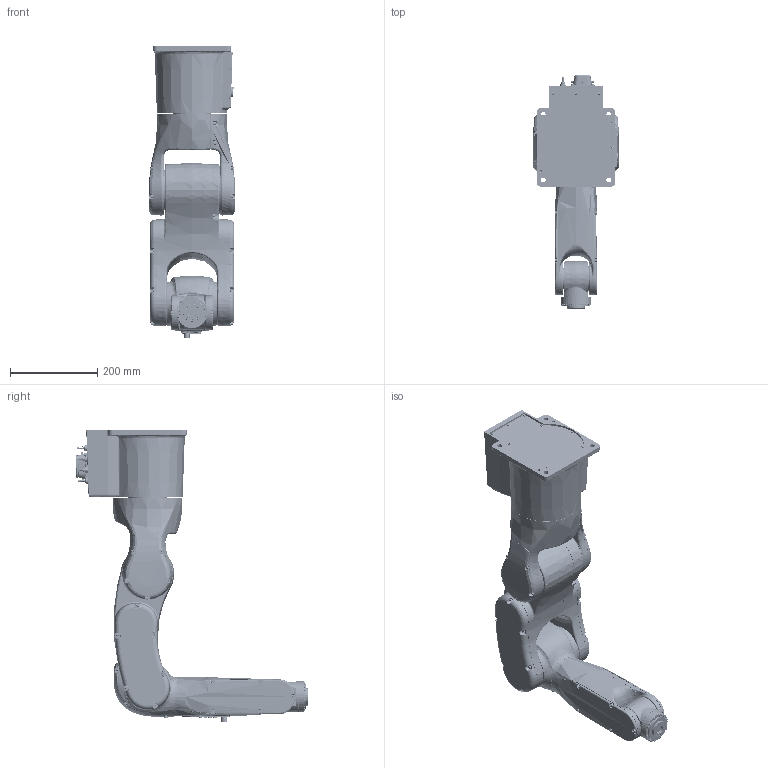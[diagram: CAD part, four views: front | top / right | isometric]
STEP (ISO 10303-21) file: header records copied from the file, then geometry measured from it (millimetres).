
FILE_DESCRIPTION(('STEP AP214'),'1');
FILE_NAME('TSR056-03.stp','2020-05-11T03:44:59',(' '),(' '),'Spatial InterOp 3D',' ',' ');
FILE_SCHEMA(('AUTOMOTIVE_DESIGN { 1 0 10303 214 1 1 1 1 }'));
Length unit declared in the file: millimetre
Products named in the file (7): TSR056-03; 0005-4________-____-X_T__; 0002-1________-____-X_T__; 0004-3________-____-X_T__; 0003-2________-____-X_T__; 0006-5________-____-X_T__; 0001-__________-____-X_T__
Assembly tree (6 placements, depth 2):
  TSR056-03
    0005-4________-____-X_T__
    0002-1________-____-X_T__
    0004-3________-____-X_T__
    0003-2________-____-X_T__
    0006-5________-____-X_T__
    0001-__________-____-X_T__
Bounding box: 197.19 x 532.34 x 669.3 mm (x, y, z)
Volume: 3878496.9 mm3; surface area: 1626917.7 mm2
Topology: 8 solids, 2138 shells, 11941 faces, 34973 edges, 25276 vertices
Faces by surface type: plane 6183, cylinder 2160, bspline 1874, cone 934, torus 627, sphere 163
Entity records: 671124 total; most frequent: CARTESIAN_POINT 264822, ORIENTED_EDGE 59114, DIRECTION 53995, EDGE_CURVE 34561, VERTEX_POINT 25274, AXIS2_PLACEMENT_3D 19026, LINE 15943, VECTOR 15943
